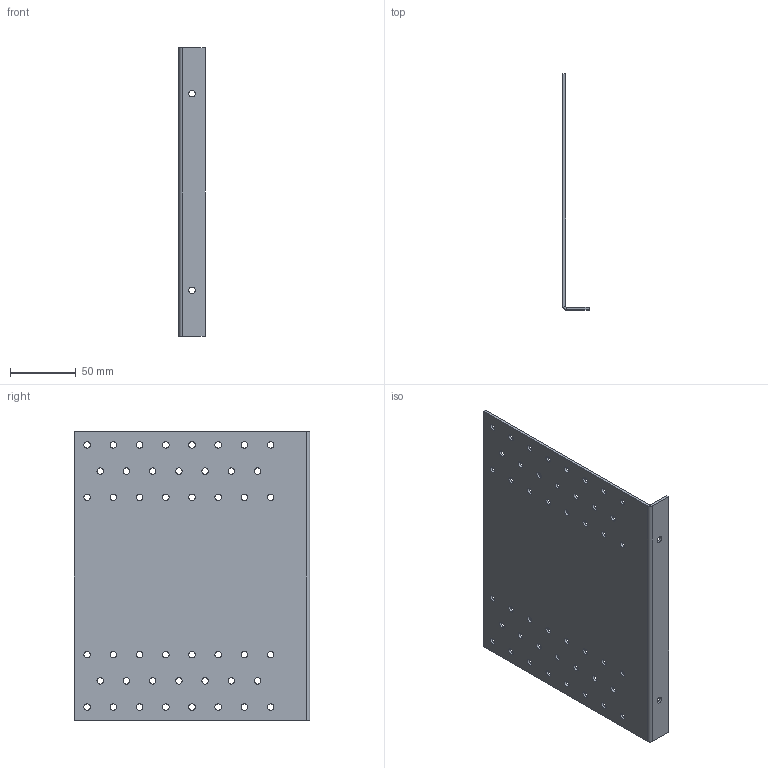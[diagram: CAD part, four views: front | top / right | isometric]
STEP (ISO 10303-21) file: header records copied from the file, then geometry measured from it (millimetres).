
FILE_DESCRIPTION (( 'STEP AP203' ), '1' );
FILE_NAME ('218.STEP', '2020-04-17T13:17:31', ( '' ), ( '' ), 'SwSTEP 2.0', 'SolidWorks 2013', '' );
FILE_SCHEMA (( 'CONFIG_CONTROL_DESIGN' ));
Length unit declared in the file: millimetre
Products named in the file (1): 218
Bounding box: 20 x 180 x 220 mm (x, y, z)
Volume: 84908 mm3; surface area: 88085 mm2
Topology: 1 solids, 1 shells, 110 faces, 316 edges, 208 vertices
Faces by surface type: cylinder 98, plane 12
Entity records: 3981 total; most frequent: DIRECTION 734, CARTESIAN_POINT 635, ORIENTED_EDGE 632, EDGE_CURVE 316, AXIS2_PLACEMENT_3D 307, VERTEX_POINT 208, EDGE_LOOP 206, CIRCLE 196
